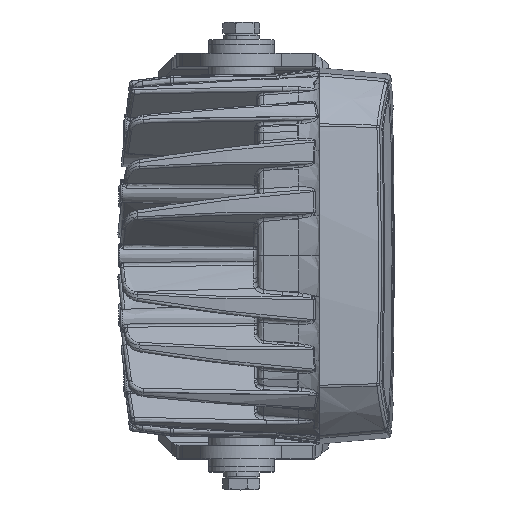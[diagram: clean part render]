
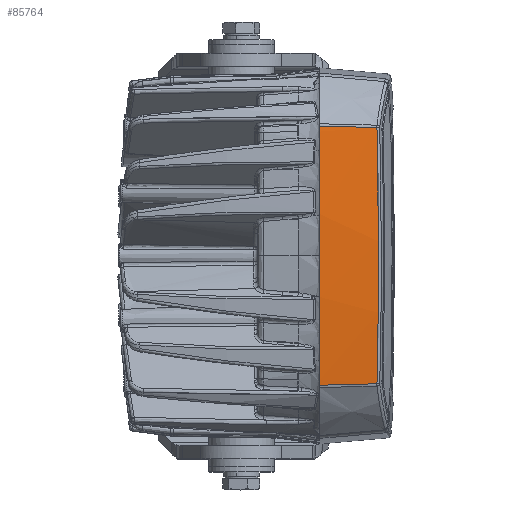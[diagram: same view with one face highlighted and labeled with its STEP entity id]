
A CAD part, top view. The second image highlights one B-rep face of the part: STEP entity #85764.
In plain terms, the highlighted conical face has half-angle 5 degrees and reference radius 400 mm.
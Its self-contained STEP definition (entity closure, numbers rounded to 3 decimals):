
#85727=AXIS2_PLACEMENT_3D('Cone Axis2P3D',#85724,#85725,#85726) ;
#85739=AXIS2_PLACEMENT_3D('Circle Axis2P3D',#85737,#85738,$) ;
#85746=AXIS2_PLACEMENT_3D('Circle Axis2P3D',#85744,#85745,$) ;
#85753=AXIS2_PLACEMENT_3D('Circle Axis2P3D',#85751,#85752,$) ;
#74308=CARTESIAN_POINT('Vertex',(44.447,-39.193,49.041)) ;
#74369=CARTESIAN_POINT('Vertex',(44.447,39.193,49.041)) ;
#74373=CARTESIAN_POINT('Control Point',(44.447,39.193,49.041)) ;
#74374=CARTESIAN_POINT('Control Point',(44.66,30.381,49.894)) ;
#74375=CARTESIAN_POINT('Control Point',(44.808,21.54,50.507)) ;
#74376=CARTESIAN_POINT('Control Point',(44.898,12.679,50.88)) ;
#74377=CARTESIAN_POINT('Control Point',(44.954,-3.036,51.113)) ;
#74378=CARTESIAN_POINT('Control Point',(44.827,-18.738,50.588)) ;
#74379=CARTESIAN_POINT('Control Point',(44.737,-25.571,50.215)) ;
#74380=CARTESIAN_POINT('Control Point',(44.611,-32.391,49.699)) ;
#74381=CARTESIAN_POINT('Control Point',(44.447,-39.193,49.041)) ;
#85702=CARTESIAN_POINT('Control Point',(44.447,-39.193,49.041)) ;
#85703=CARTESIAN_POINT('Control Point',(40.958,-39.281,49.34)) ;
#85704=CARTESIAN_POINT('Control Point',(37.468,-39.369,49.638)) ;
#85705=CARTESIAN_POINT('Control Point',(33.979,-39.457,49.936)) ;
#85706=CARTESIAN_POINT('Control Point',(30.489,-39.545,50.234)) ;
#85707=CARTESIAN_POINT('Control Point',(27.,-39.632,50.532)) ;
#85708=CARTESIAN_POINT('Vertex',(27.,-39.632,50.532)) ;
#85724=CARTESIAN_POINT('Axis2P3D Location',(27.,0.,-347.5)) ;
#85730=CARTESIAN_POINT('Control Point',(44.447,39.193,49.041)) ;
#85731=CARTESIAN_POINT('Control Point',(38.631,39.34,49.538)) ;
#85732=CARTESIAN_POINT('Control Point',(32.816,39.487,50.035)) ;
#85733=CARTESIAN_POINT('Control Point',(27.,39.632,50.532)) ;
#85734=CARTESIAN_POINT('Vertex',(27.,39.632,50.532)) ;
#85737=CARTESIAN_POINT('Axis2P3D Location',(27.,0.,-347.5)) ;
#85741=CARTESIAN_POINT('Vertex',(27.,37.958,50.695)) ;
#85744=CARTESIAN_POINT('Axis2P3D Location',(27.,0.,-347.5)) ;
#85748=CARTESIAN_POINT('Vertex',(27.,-37.958,50.695)) ;
#85751=CARTESIAN_POINT('Axis2P3D Location',(27.,0.,-347.5)) ;
#85725=DIRECTION('Axis2P3D Direction',(-1.,-0.,-0.)) ;
#85726=DIRECTION('Axis2P3D XDirection',(0.,0.1,0.995)) ;
#85738=DIRECTION('Axis2P3D Direction',(1.,0.,0.)) ;
#85745=DIRECTION('Axis2P3D Direction',(1.,0.,0.)) ;
#85752=DIRECTION('Axis2P3D Direction',(1.,0.,0.)) ;
#85757=ORIENTED_EDGE('',*,*,#74382,.F.) ;
#85758=ORIENTED_EDGE('',*,*,#85736,.F.) ;
#85759=ORIENTED_EDGE('',*,*,#85743,.F.) ;
#85760=ORIENTED_EDGE('',*,*,#85750,.F.) ;
#85761=ORIENTED_EDGE('',*,*,#85755,.F.) ;
#85762=ORIENTED_EDGE('',*,*,#85710,.T.) ;
#85764=ADVANCED_FACE('Housing_gr',(#85763),#85728,.T.) ;
#74372=B_SPLINE_CURVE_WITH_KNOTS('',5,(#74373,#74374,#74375,#74376,#74377,#74378,#74379,#74380,#74381),.UNSPECIFIED.,.F.,.U.,(6,3,6),(44.211,99.136,141.537),.UNSPECIFIED.) ;
#85701=B_SPLINE_CURVE_WITH_KNOTS('',5,(#85702,#85703,#85704,#85705,#85706,#85707),.UNSPECIFIED.,.F.,.U.,(6,6),(10.309,35.081),.UNSPECIFIED.) ;
#85729=B_SPLINE_CURVE_WITH_KNOTS('',3,(#85730,#85731,#85732,#85733),.UNSPECIFIED.,.F.,.U.,(4,4),(10.309,35.081),.UNSPECIFIED.) ;
#85740=CIRCLE('generated circle',#85739,400.) ;
#85747=CIRCLE('generated circle',#85746,400.) ;
#85754=CIRCLE('generated circle',#85753,400.) ;
#85728=CONICAL_SURFACE('Cone',#85727,400.,0.087) ;
#74382=EDGE_CURVE('',#74370,#74309,#74372,.T.) ;
#85710=EDGE_CURVE('',#85709,#74309,#85701,.F.) ;
#85736=EDGE_CURVE('',#85735,#74370,#85729,.F.) ;
#85743=EDGE_CURVE('',#85742,#85735,#85740,.F.) ;
#85750=EDGE_CURVE('',#85749,#85742,#85747,.F.) ;
#85755=EDGE_CURVE('',#85709,#85749,#85754,.F.) ;
#85756=EDGE_LOOP('',(#85757,#85758,#85759,#85760,#85761,#85762)) ;
#85763=FACE_OUTER_BOUND('',#85756,.T.) ;
#74309=VERTEX_POINT('',#74308) ;
#74370=VERTEX_POINT('',#74369) ;
#85709=VERTEX_POINT('',#85708) ;
#85735=VERTEX_POINT('',#85734) ;
#85742=VERTEX_POINT('',#85741) ;
#85749=VERTEX_POINT('',#85748) ;
